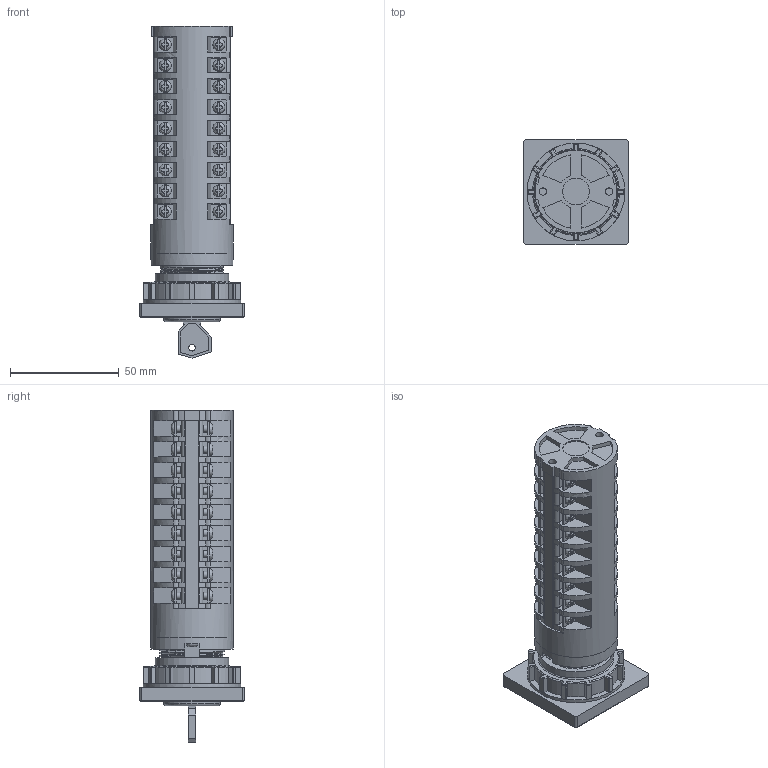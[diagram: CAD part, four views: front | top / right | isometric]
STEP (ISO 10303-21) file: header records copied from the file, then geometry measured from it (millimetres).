
FILE_DESCRIPTION(/* description */ (''),/* implementation_level */ '2;1');
FILE_NAME(/* name */ '4G10-U_wykonanie_S30_9_korpusow.stp',/* time_stamp */ '2021-07-21T09:03:18+02:00',/* author */ (''),/* organization */ (''),/* preprocessor_version */ 'ST-DEVELOPER v18.1',/* originating_system */ 'SIEMENS PLM Software NX 1965',/* authorisation */ '');
FILE_SCHEMA (('AUTOMOTIVE_DESIGN { 1 0 10303 214 3 1 1 1 }'));
Length unit declared in the file: millimetre
Products named in the file (1): 4G10-U_wykonanie_S30_9_korpusow_stp
Bounding box: 48 x 48 x 152.62 mm (x, y, z)
Volume: 139084.8 mm3; surface area: 38068.2 mm2
Topology: 1 solids, 3 shells, 1481 faces, 4044 edges, 2634 vertices
Faces by surface type: plane 1121, cylinder 269, bspline 75, torus 16
Full cylindrical faces by diameter (mm): 3 x1, 3.2 x38, 3.3 x2, 3.4 x2, 12.3 x1, 15 x1, 26 x1, 34 x1, 38 x2, 45 x1
Entity records: 52720 total; most frequent: CARTESIAN_POINT 16130, ORIENTED_EDGE 7776, DIRECTION 7250, EDGE_CURVE 3888, VERTEX_POINT 2592, AXIS2_PLACEMENT_3D 2436, LINE 2378, VECTOR 2378
